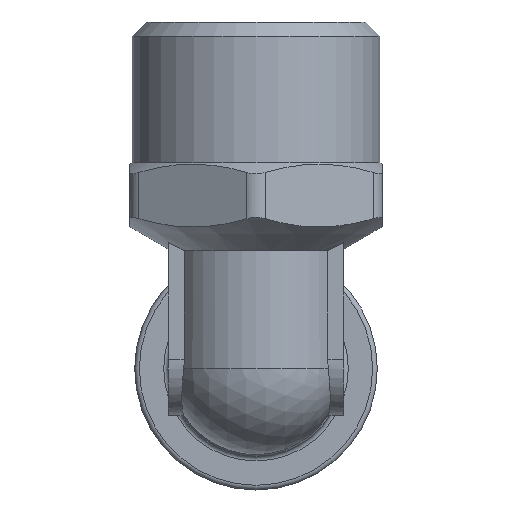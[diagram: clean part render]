
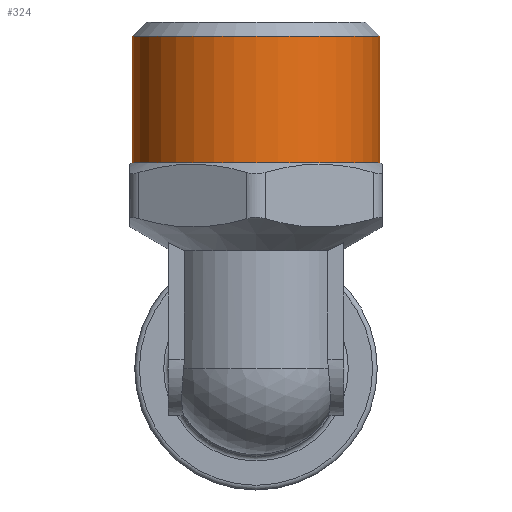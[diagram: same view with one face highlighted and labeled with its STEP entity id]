
A CAD part, front view. The second image highlights one B-rep face of the part: STEP entity #324.
In plain terms, the highlighted cylindrical face has radius 13.22 mm (diameter 26.441 mm), a full revolution.
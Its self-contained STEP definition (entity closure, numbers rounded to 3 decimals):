
#324=ADVANCED_FACE('',(#2569,#2571),#2573,.T.);
#2569=FACE_OUTER_BOUND('',#2570,.T.);
#2570=EDGE_LOOP('',(#5033));
#2571=FACE_OUTER_BOUND('',#2572,.T.);
#2572=EDGE_LOOP('',(#5034));
#2573=CYLINDRICAL_SURFACE('',#2574,13.221);
#2574=AXIS2_PLACEMENT_3D('',#2575,#2576,#2577);
#2575=CARTESIAN_POINT('',(0.,0.,22.));
#2576=DIRECTION('',(0.,0.,1.));
#2577=DIRECTION('',(1.,0.,0.));
#5033=ORIENTED_EDGE('',*,*,#5943,.F.);
#5034=ORIENTED_EDGE('',*,*,#5938,.T.);
#5938=EDGE_CURVE('',#7318,#7318,#7319,.T.);
#5943=EDGE_CURVE('',#7328,#7328,#7329,.T.);
#7318=VERTEX_POINT('',#12072);
#7319=CIRCLE('',#12073,13.221);
#7328=VERTEX_POINT('',#12094);
#7329=CIRCLE('',#12095,13.221);
#12072=CARTESIAN_POINT('',(13.221,0.,22.));
#12073=AXIS2_PLACEMENT_3D('',#12074,#12075,#12076);
#12074=CARTESIAN_POINT('',(0.,0.,22.));
#12075=DIRECTION('',(0.,0.,1.));
#12076=DIRECTION('',(1.,0.,0.));
#12094=CARTESIAN_POINT('',(13.221,0.,35.5));
#12095=AXIS2_PLACEMENT_3D('',#12096,#12097,#12098);
#12096=CARTESIAN_POINT('',(0.,0.,35.5));
#12097=DIRECTION('',(0.,0.,1.));
#12098=DIRECTION('',(1.,0.,0.));
